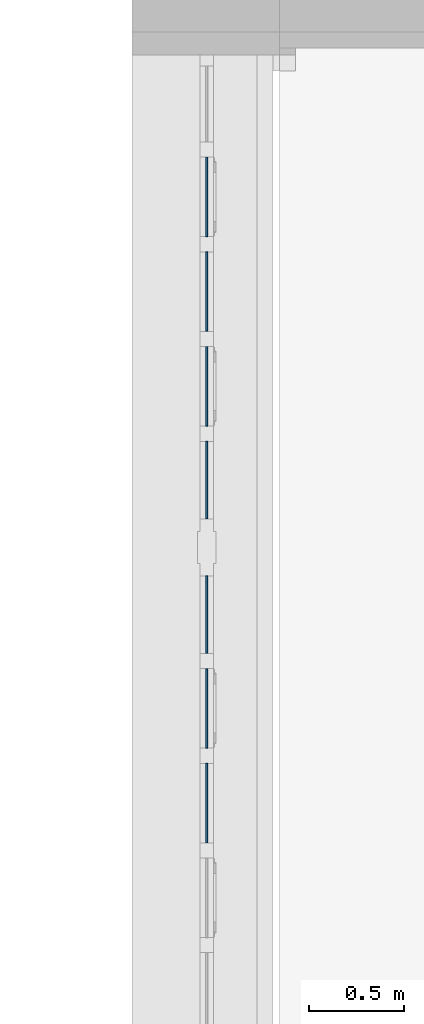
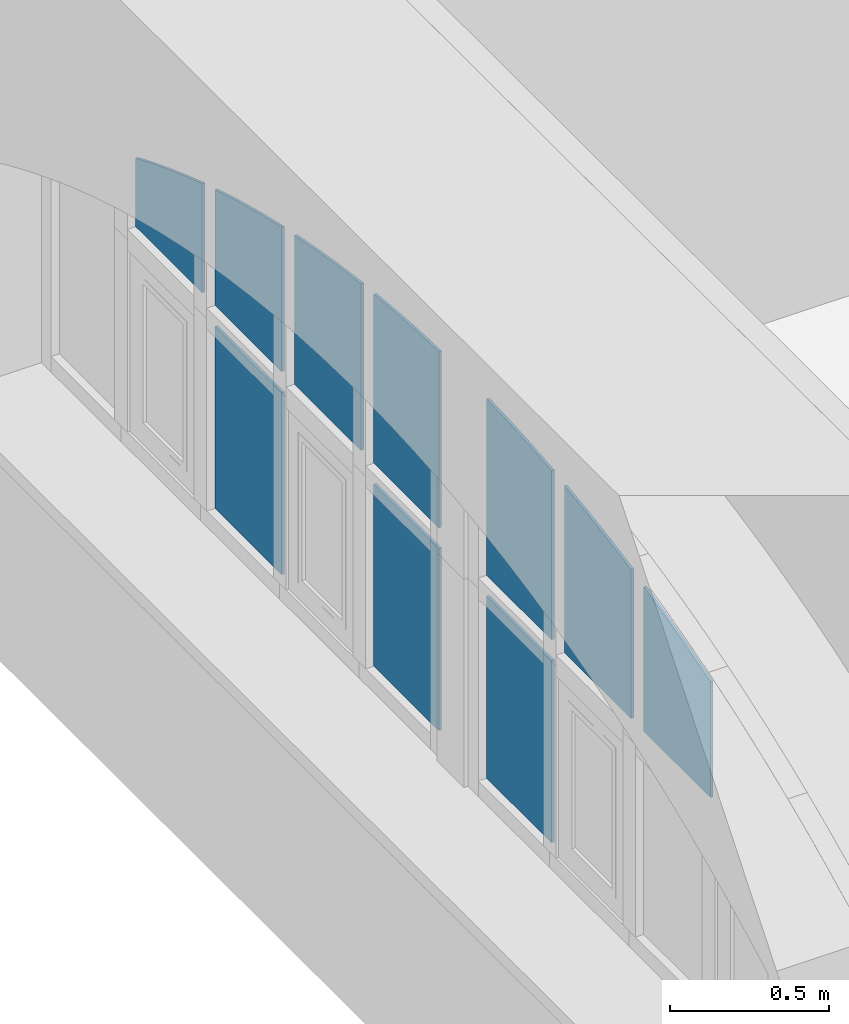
# One storey, part 27 of 32: 10 plates, 1 element without a shape of its own.
"""IFC2X3 building model written with IfcOpenShell, lengths in millimetres."""

from ifc_helpers import new_model, entity, si_unit, converted_unit, derived_unit, direction, frame, frame_2d, origin, origin_2d_with_axis, place, context, subcontext, project, spatial, polyline, circle_curve, parameter, trimmed, segment, composite_curve, rectangle, outline, extrude, source, transform, mapped, material, type_object, type_shapes, element, aggregate, save


model = new_model("IFC2X3")

# Units and contexts
model_context = context("Model", 3, precision=0.01, world=origin(), true_north=direction((6.123031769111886e-17, 1.0)))
body_context = subcontext(model_context, "Body", "Model", "MODEL_VIEW")
ifc_project = project(units=[si_unit("LENGTHUNIT", "METRE", prefix="MILLI"), si_unit("AREAUNIT", "SQUARE_METRE"), si_unit("VOLUMEUNIT", "CUBIC_METRE"), converted_unit("PLANEANGLEUNIT", "DEGREE", entity("IfcPlaneAngleMeasure", 0.017453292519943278), si_unit("PLANEANGLEUNIT", "RADIAN"), dimensions=[0, 0, 0, 0, 0, 0, 0]), si_unit("MASSUNIT", "GRAM", prefix="KILO"), derived_unit("MASSDENSITYUNIT", [(si_unit("MASSUNIT", "GRAM", prefix="KILO"), 1), (si_unit("LENGTHUNIT", "METRE"), -3)]), derived_unit("IONCONCENTRATIONUNIT", [(si_unit("MASSUNIT", "GRAM", prefix="KILO"), 1), (si_unit("LENGTHUNIT", "METRE"), -3)]), derived_unit("MOMENTOFINERTIAUNIT", [(si_unit("LENGTHUNIT", "METRE"), 4)]), si_unit("TIMEUNIT", "SECOND"), si_unit("FREQUENCYUNIT", "HERTZ"), si_unit("THERMODYNAMICTEMPERATUREUNIT", "DEGREE_CELSIUS"), derived_unit("THERMALTRANSMITTANCEUNIT", [(si_unit("MASSUNIT", "GRAM", prefix="KILO"), 1), (si_unit("THERMODYNAMICTEMPERATUREUNIT", "KELVIN"), -1), (si_unit("TIMEUNIT", "SECOND"), -3)]), derived_unit("THERMALCONDUCTANCEUNIT", [(si_unit("MASSUNIT", "GRAM", prefix="KILO"), 1), (si_unit("THERMODYNAMICTEMPERATUREUNIT", "KELVIN"), -1), (si_unit("TIMEUNIT", "SECOND"), -3), (si_unit("LENGTHUNIT", "METRE"), 1)]), derived_unit("VOLUMETRICFLOWRATEUNIT", [(si_unit("LENGTHUNIT", "METRE", prefix="DECI"), 3), (si_unit("TIMEUNIT", "SECOND"), -1)]), derived_unit("MASSFLOWRATEUNIT", [(si_unit("MASSUNIT", "GRAM", prefix="KILO"), 1), (si_unit("TIMEUNIT", "SECOND"), -1)]), derived_unit("ROTATIONALFREQUENCYUNIT", [(si_unit("TIMEUNIT", "SECOND"), -1)]), si_unit("ELECTRICCURRENTUNIT", "AMPERE"), si_unit("ELECTRICVOLTAGEUNIT", "VOLT"), si_unit("POWERUNIT", "WATT"), si_unit("FORCEUNIT", "NEWTON", prefix="KILO"), si_unit("ILLUMINANCEUNIT", "LUX"), si_unit("LUMINOUSFLUXUNIT", "LUMEN"), si_unit("LUMINOUSINTENSITYUNIT", "CANDELA"), si_unit("ENERGYUNIT", "JOULE"), derived_unit("USERDEFINED", [(si_unit("MASSUNIT", "GRAM", prefix="KILO"), -1), (si_unit("LENGTHUNIT", "METRE"), -2), (si_unit("TIMEUNIT", "SECOND"), 3), (si_unit("LUMINOUSFLUXUNIT", "LUMEN"), 1)]), derived_unit("USERDEFINED", [(si_unit("MASSUNIT", "GRAM", prefix="KILO"), 1), (si_unit("TIMEUNIT", "SECOND"), -3), (si_unit("LENGTHUNIT", "METRE"), 3), (si_unit("ELECTRICCURRENTUNIT", "AMPERE"), -2)]), derived_unit("SOUNDPOWERUNIT", [(si_unit("MASSUNIT", "GRAM", prefix="KILO"), 1), (si_unit("TIMEUNIT", "SECOND"), -3), (si_unit("LENGTHUNIT", "METRE"), 2)]), derived_unit("SOUNDPRESSUREUNIT", [(si_unit("MASSUNIT", "GRAM", prefix="KILO"), 1), (si_unit("LENGTHUNIT", "METRE"), -1), (si_unit("TIMEUNIT", "SECOND"), -2)]), derived_unit("LINEARVELOCITYUNIT", [(si_unit("LENGTHUNIT", "METRE"), 1), (si_unit("TIMEUNIT", "SECOND"), -1)]), si_unit("PRESSUREUNIT", "PASCAL"), derived_unit("USERDEFINED", [(si_unit("MASSUNIT", "GRAM", prefix="KILO"), 1), (si_unit("LENGTHUNIT", "METRE"), -2), (si_unit("TIMEUNIT", "SECOND"), -2)]), derived_unit("LINEARFORCEUNIT", [(si_unit("MASSUNIT", "GRAM", prefix="KILO"), 1), (si_unit("TIMEUNIT", "SECOND"), -2)]), derived_unit("PLANARFORCEUNIT", [(si_unit("MASSUNIT", "GRAM", prefix="KILO"), 1), (si_unit("LENGTHUNIT", "METRE"), -1), (si_unit("TIMEUNIT", "SECOND"), -2)]), derived_unit("SPECIFICHEATCAPACITYUNIT", [(si_unit("THERMODYNAMICTEMPERATUREUNIT", "KELVIN"), -1), (si_unit("LENGTHUNIT", "METRE"), 2), (si_unit("TIMEUNIT", "SECOND"), -2)]), derived_unit("HEATFLUXDENSITYUNIT", [(si_unit("MASSUNIT", "GRAM", prefix="KILO"), 1), (si_unit("TIMEUNIT", "SECOND"), -3)]), derived_unit("HEATINGVALUEUNIT", [(si_unit("LENGTHUNIT", "METRE"), 2), (si_unit("TIMEUNIT", "SECOND"), -2)]), derived_unit("VAPORPERMEABILITYUNIT", [(si_unit("LENGTHUNIT", "METRE"), -1), (si_unit("TIMEUNIT", "SECOND"), 1)]), derived_unit("DYNAMICVISCOSITYUNIT", [(si_unit("MASSUNIT", "GRAM", prefix="KILO"), 1), (si_unit("TIMEUNIT", "SECOND"), -1), (si_unit("LENGTHUNIT", "METRE"), -1)]), derived_unit("THERMALEXPANSIONCOEFFICIENTUNIT", [(si_unit("THERMODYNAMICTEMPERATUREUNIT", "KELVIN"), -1)]), derived_unit("MODULUSOFELASTICITYUNIT", [(si_unit("MASSUNIT", "GRAM", prefix="KILO"), 1), (si_unit("LENGTHUNIT", "METRE"), -1), (si_unit("TIMEUNIT", "SECOND"), -2)]), derived_unit("ISOTHERMALMOISTURECAPACITYUNIT", [(si_unit("MASSUNIT", "GRAM", prefix="KILO"), -1), (si_unit("LENGTHUNIT", "METRE"), 3)]), derived_unit("MOISTUREDIFFUSIVITYUNIT", [(si_unit("TIMEUNIT", "SECOND"), -1), (si_unit("LENGTHUNIT", "METRE"), 2)]), derived_unit("MASSPERLENGTHUNIT", [(si_unit("MASSUNIT", "GRAM", prefix="KILO"), 1), (si_unit("LENGTHUNIT", "METRE"), -1)]), derived_unit("THERMALRESISTANCEUNIT", [(si_unit("MASSUNIT", "GRAM", prefix="KILO"), -1), (si_unit("TIMEUNIT", "SECOND"), 3), (si_unit("THERMODYNAMICTEMPERATUREUNIT", "KELVIN"), 1)]), derived_unit("ACCELERATIONUNIT", [(si_unit("LENGTHUNIT", "METRE"), 1), (si_unit("TIMEUNIT", "SECOND"), -2)]), derived_unit("ANGULARVELOCITYUNIT", [(si_unit("TIMEUNIT", "SECOND"), -1), (si_unit("PLANEANGLEUNIT", "RADIAN"), 1)]), derived_unit("LINEARSTIFFNESSUNIT", [(si_unit("MASSUNIT", "GRAM", prefix="KILO"), 1), (si_unit("TIMEUNIT", "SECOND"), -2)]), derived_unit("WARPINGCONSTANTUNIT", [(si_unit("LENGTHUNIT", "METRE"), 6)]), derived_unit("LINEARMOMENTUNIT", [(si_unit("MASSUNIT", "GRAM", prefix="KILO"), 1), (si_unit("LENGTHUNIT", "METRE"), 1), (si_unit("TIMEUNIT", "SECOND"), -2)]), derived_unit("TORQUEUNIT", [(si_unit("MASSUNIT", "GRAM", prefix="KILO"), 1), (si_unit("LENGTHUNIT", "METRE"), 2), (si_unit("TIMEUNIT", "SECOND"), -2)])], contexts=[model_context])

# Site, building, storey
site_placement = place(None, origin())
site = spatial("IfcSite", under=ifc_project, at=site_placement, Name="Default", CompositionType="ELEMENT")
building_placement = place(site_placement, origin())
building = spatial("IfcBuilding", under=site, at=building_placement, Name="Eesti Rahvusraamatukogu hoone renoveerimise projekteerimistööd", CompositionType="ELEMENT")
storey_placement = place(building_placement, frame((0.0, 0.0, 4950.000000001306)))
storey = spatial("IfcBuildingStorey", under=building, at=storey_placement, Name="2. korrus", CompositionType="ELEMENT", Elevation=4950.000000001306)

# Curtain wall, plates
curtain_wall_type = type_object("IfcCurtainWallType", Name="Curtain Wall:Ak-04", PredefinedType="NOTDEFINED")
curtain_wall_placement = place(storey_placement, frame((0.0, 0.0, -4950.000000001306)))
curtain_wall = element("IfcCurtainWall", 1, at=curtain_wall_placement, inside=storey, type_object=curtain_wall_type, Name="Curtain Wall:Ak-04", ObjectType="Curtain Wall:Ak-04")
ifc_material = material(Name="EST. Klaas. 3x. Default")
plate_type_1 = type_object("IfcPlateType", Name="System Panel:Peegelaknad 6-16-4-16-4, paneel", PredefinedType="CURTAIN_PANEL", material=ifc_material)
shared_shape_1 = source(origin(), body_context, "Body", "SweptSolid", [
    extrude(rectangle(XDim=10.0, YDim=419.99999999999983, at=origin_2d_with_axis()), frame((0.0, 0.0, 0.0), z_axis=(0.0, 0.0, 1.0), x_axis=(0.0, 1.0, 0.0)), (0.0, 0.0, 1.0), 700.0),
])
type_shapes(plate_type_1, [shared_shape_1])
plate_1_placement = place(curtain_wall_placement, frame((-36383.999999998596, 46709.00000000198, 5810.000000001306), z_axis=(0.0, 0.0, 1.0), x_axis=(0.0, -1.0, 0.0)))
plate_1 = element("IfcPlate", 2, at=plate_1_placement, type_object=plate_type_1, material=ifc_material, Name="System Panel:Peegelaknad 6-16-4-16-4, paneel", ObjectType="System Panel:Peegelaknad 6-16-4-16-4, paneel", context=body_context, shape_type="MappedRepresentation", body=[
    mapped(shared_shape_1, transform((0.0, 0.0, 0.0), scale=1.0)),
])
plate_type_2 = type_object("IfcPlateType", Name="System Panel:Peegelaknad 6-16-4-16-4, paneel", PredefinedType="CURTAIN_PANEL", material=ifc_material)
shared_shape_2 = source(origin(), body_context, "Body", "SweptSolid", [
    extrude(rectangle(XDim=10.0, YDim=410.0000000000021, at=origin_2d_with_axis()), frame((0.0, 0.0, 0.0), z_axis=(0.0, 0.0, 1.0), x_axis=(0.0, 1.0, 0.0)), (0.0, 0.0, 1.0), 700.0),
])
type_shapes(plate_type_2, [shared_shape_2])
plate_2_placement = place(curtain_wall_placement, frame((-36383.999999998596, 45714.00000000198, 5810.000000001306), z_axis=(0.0, 0.0, 1.0), x_axis=(0.0, -1.0, 0.0)))
plate_2 = element("IfcPlate", 3, at=plate_2_placement, type_object=plate_type_2, material=ifc_material, Name="System Panel:Peegelaknad 6-16-4-16-4, paneel", ObjectType="System Panel:Peegelaknad 6-16-4-16-4, paneel", context=body_context, shape_type="MappedRepresentation", body=[
    mapped(shared_shape_2, transform((0.0, 0.0, 0.0), scale=1.0)),
])
plate_3_placement = place(curtain_wall_placement, frame((-36383.999999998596, 45004.000000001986, 5810.000000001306), z_axis=(0.0, 0.0, 1.0), x_axis=(0.0, -1.0, 0.0)))
plate_3 = element("IfcPlate", 4, at=plate_3_placement, type_object=plate_type_2, material=ifc_material, Name="System Panel:Peegelaknad 6-16-4-16-4, paneel", ObjectType="System Panel:Peegelaknad 6-16-4-16-4, paneel", context=body_context, shape_type="MappedRepresentation", body=[
    mapped(shared_shape_2, transform((0.0, 0.0, 0.0), scale=1.0)),
])
plate_type_3 = type_object("IfcPlateType", Name="System Panel:Peegelaknad 6-16-4-16-4, paneel", PredefinedType="CURTAIN_PANEL", material=ifc_material)
shared_shape_3 = source(origin(), body_context, "Body", "SweptSolid", [
    extrude(outline(composite_curve([segment(polyline([(-170.7819693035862, -210.0), (92.47651241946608, -210.0)]), True, "CONTINUOUS"), segment(trimmed(circle_curve(frame_2d((-4790.558088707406, 1850.0), x_axis=(0.9547498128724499, -0.29741014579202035)), 5299.776119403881), [parameter(354.42875253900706)], [parameter(359.27620733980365)], True, "PARAMETER"), True, "CONTINUOUS"), segment(polyline([(249.0874261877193, 210.0), (-170.7819693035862, 210.0)]), True, "CONTINUOUS"), segment(polyline([(-170.7819693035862, 210.0), (-170.7819693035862, -210.0)]), True, "CONTINUOUS")], self_intersect=False)), frame((0.0, -5.0, 170.7819693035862), z_axis=(0.0, 1.0, 0.0), x_axis=(0.0, 0.0, 1.0)), (0.0, 0.0, 1.0), 10.0),
])
type_shapes(plate_type_3, [shared_shape_3])
plate_4_placement = place(curtain_wall_placement, frame((-36383.999999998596, 47209.000000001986, 6590.000000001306), z_axis=(0.0, 0.0, 1.0), x_axis=(0.0, -1.0, 0.0)))
plate_4 = element("IfcPlate", 5, at=plate_4_placement, type_object=plate_type_3, material=ifc_material, Name="System Panel:Peegelaknad 6-16-4-16-4, paneel", ObjectType="System Panel:Peegelaknad 6-16-4-16-4, paneel", context=body_context, shape_type="MappedRepresentation", body=[
    mapped(shared_shape_3, transform((0.0, 0.0, 0.0), scale=1.0)),
])
plate_type_4 = type_object("IfcPlateType", Name="System Panel:Peegelaknad 6-16-4-16-4, paneel", PredefinedType="CURTAIN_PANEL", material=ifc_material)
shared_shape_4 = source(origin(), body_context, "Body", "SweptSolid", [
    extrude(outline(composite_curve([segment(polyline([(-250.28582961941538, -210.0), (194.91849672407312, -210.0)]), True, "CONTINUOUS"), segment(trimmed(circle_curve(frame_2d((-4870.061949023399, 1350.0), x_axis=(0.9788729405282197, -0.20446947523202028)), 5299.776119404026), [parameter(354.6797564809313)], [parameter(359.3768492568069)], True, "PARAMETER"), True, "CONTINUOUS"), segment(polyline([(305.65316251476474, 210.0), (-250.28582961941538, 210.0)]), True, "CONTINUOUS"), segment(polyline([(-250.28582961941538, 210.0), (-250.28582961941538, -210.0)]), True, "CONTINUOUS")], self_intersect=False)), frame((0.0, -5.0, 250.28582961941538), z_axis=(0.0, 1.0, 0.0), x_axis=(0.0, 0.0, 1.0)), (0.0, 0.0, 1.0), 10.0),
])
type_shapes(plate_type_4, [shared_shape_4])
plate_5_placement = place(curtain_wall_placement, frame((-36383.999999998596, 46709.00000000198, 6590.000000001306), z_axis=(0.0, 0.0, 1.0), x_axis=(0.0, -1.0, 0.0)))
plate_5 = element("IfcPlate", 6, at=plate_5_placement, type_object=plate_type_4, material=ifc_material, Name="System Panel:Peegelaknad 6-16-4-16-4, paneel", ObjectType="System Panel:Peegelaknad 6-16-4-16-4, paneel", context=body_context, shape_type="MappedRepresentation", body=[
    mapped(shared_shape_4, transform((0.0, 0.0, 0.0), scale=1.0)),
])
plate_type_5 = type_object("IfcPlateType", Name="System Panel:Peegelaknad 6-16-4-16-4, paneel", PredefinedType="CURTAIN_PANEL", material=ifc_material)
shared_shape_5 = source(origin(), body_context, "Body", "SweptSolid", [
    extrude(outline(composite_curve([segment(polyline([(-303.532144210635, -210.0), (269.381493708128, -210.0)]), True, "CONTINUOUS"), segment(trimmed(circle_curve(frame_2d((-4923.308263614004, 850.0), x_axis=(0.9937612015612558, -0.11152880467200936)), 5299.776119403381), [parameter(354.8659988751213)], [parameter(359.46749610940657)], True, "PARAMETER"), True, "CONTINUOUS"), segment(polyline([(337.6827947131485, 210.0), (-303.532144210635, 210.0)]), True, "CONTINUOUS"), segment(polyline([(-303.532144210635, 210.0), (-303.532144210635, -210.0)]), True, "CONTINUOUS")], self_intersect=False)), frame((0.0, -5.0, 303.532144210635), z_axis=(0.0, 1.0, 0.0), x_axis=(0.0, 0.0, 1.0)), (0.0, 0.0, 1.0), 10.0),
])
type_shapes(plate_type_5, [shared_shape_5])
plate_6_placement = place(curtain_wall_placement, frame((-36383.999999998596, 46209.000000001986, 6590.000000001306), z_axis=(0.0, 0.0, 1.0), x_axis=(0.0, -1.0, 0.0)))
plate_6 = element("IfcPlate", 7, at=plate_6_placement, type_object=plate_type_5, material=ifc_material, Name="System Panel:Peegelaknad 6-16-4-16-4, paneel", ObjectType="System Panel:Peegelaknad 6-16-4-16-4, paneel", context=body_context, shape_type="MappedRepresentation", body=[
    mapped(shared_shape_5, transform((0.0, 0.0, 0.0), scale=1.0)),
])
plate_type_6 = type_object("IfcPlateType", Name="System Panel:Peegelaknad 6-16-4-16-4, paneel", PredefinedType="CURTAIN_PANEL", material=ifc_material)
shared_shape_6 = source(origin(), body_context, "Body", "SweptSolid", [
    extrude(outline(composite_curve([segment(polyline([(-332.05191026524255, -205.0), (318.27888725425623, -205.0)]), True, "CONTINUOUS"), segment(trimmed(circle_curve(frame_2d((-4951.82802966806, 355.0), x_axis=(1.0, 0.0)), 5299.776119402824), [parameter(353.9345277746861)], [parameter(358.3781362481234)], True, "PARAMETER"), True, "CONTINUOUS"), segment(polyline([(345.8249332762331, 205.0), (-332.05191026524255, 205.0)]), True, "CONTINUOUS"), segment(polyline([(-332.05191026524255, 205.0), (-332.05191026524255, -205.0)]), True, "CONTINUOUS")], self_intersect=False)), frame((0.0, -5.0, 332.05191026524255), z_axis=(0.0, 1.0, 0.0), x_axis=(0.0, 0.0, 1.0)), (0.0, 0.0, 1.0), 10.0),
])
type_shapes(plate_type_6, [shared_shape_6])
plate_7_placement = place(curtain_wall_placement, frame((-36383.999999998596, 45714.00000000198, 6590.000000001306), z_axis=(0.0, 0.0, 1.0), x_axis=(0.0, -1.0, 0.0)))
plate_7 = element("IfcPlate", 8, at=plate_7_placement, type_object=plate_type_6, material=ifc_material, Name="System Panel:Peegelaknad 6-16-4-16-4, paneel", ObjectType="System Panel:Peegelaknad 6-16-4-16-4, paneel", context=body_context, shape_type="MappedRepresentation", body=[
    mapped(shared_shape_6, transform((0.0, 0.0, 0.0), scale=1.0)),
])
plate_type_7 = type_object("IfcPlateType", Name="System Panel:Peegelaknad 6-16-4-16-4, paneel", PredefinedType="CURTAIN_PANEL", material=ifc_material)
shared_shape_7 = source(origin(), body_context, "Body", "SweptSolid", [
    extrude(outline(composite_curve([segment(polyline([(-332.0519102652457, 205.0), (-332.0519102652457, -205.0)]), True, "CONTINUOUS"), segment(polyline([(-332.0519102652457, -205.0), (318.2788872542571, -205.0)]), True, "CONTINUOUS"), segment(trimmed(circle_curve(frame_2d((-4951.828029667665, 355.0), x_axis=(0.9937612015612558, -0.1115288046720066)), 5299.776119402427), [parameter(0.3379797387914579)], [parameter(4.7815882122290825)], True, "PARAMETER"), True, "CONTINUOUS"), segment(polyline([(345.8249332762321, 205.0), (-332.0519102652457, 205.0)]), True, "CONTINUOUS")], self_intersect=False)), frame((0.0, -5.0, 332.0519102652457), z_axis=(0.0, -1.0, 0.0), x_axis=(0.0, 0.0, 1.0)), (0.0, 0.0, -1.0), 10.0),
])
type_shapes(plate_type_7, [shared_shape_7])
plate_8_placement = place(curtain_wall_placement, frame((-36383.999999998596, 45004.000000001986, 6590.000000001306), z_axis=(0.0, 0.0, 1.0), x_axis=(0.0, -1.0, 0.0)))
plate_8 = element("IfcPlate", 9, at=plate_8_placement, type_object=plate_type_7, material=ifc_material, Name="System Panel:Peegelaknad 6-16-4-16-4, paneel", ObjectType="System Panel:Peegelaknad 6-16-4-16-4, paneel", context=body_context, shape_type="MappedRepresentation", body=[
    mapped(shared_shape_7, transform((0.0, 0.0, 0.0), scale=1.0)),
])
plate_type_8 = type_object("IfcPlateType", Name="System Panel:Peegelaknad 6-16-4-16-4, paneel", PredefinedType="CURTAIN_PANEL", material=ifc_material)
shared_shape_8 = source(origin(), body_context, "Body", "SweptSolid", [
    extrude(outline(composite_curve([segment(polyline([(-303.53214421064, 210.0), (-303.53214421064, -210.0)]), True, "CONTINUOUS"), segment(polyline([(-303.53214421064, -210.0), (269.3814937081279, -210.0)]), True, "CONTINUOUS"), segment(trimmed(circle_curve(frame_2d((-4923.3082636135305, 850.0), x_axis=(0.9788729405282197, -0.2044694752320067)), 5299.7761194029), [parameter(0.2609913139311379)], [parameter(4.862488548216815)], True, "PARAMETER"), True, "CONTINUOUS"), segment(polyline([(337.6827947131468, 210.0), (-303.53214421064, 210.0)]), True, "CONTINUOUS")], self_intersect=False)), frame((0.0, -5.0, 303.53214421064), z_axis=(0.0, -1.0, 0.0), x_axis=(0.0, 0.0, 1.0)), (0.0, 0.0, -1.0), 10.0),
])
type_shapes(plate_type_8, [shared_shape_8])
plate_9_placement = place(curtain_wall_placement, frame((-36383.999999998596, 44509.00000000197, 6590.000000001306), z_axis=(0.0, 0.0, 1.0), x_axis=(0.0, -1.0, 0.0)))
plate_9 = element("IfcPlate", 10, at=plate_9_placement, type_object=plate_type_8, material=ifc_material, Name="System Panel:Peegelaknad 6-16-4-16-4, paneel", ObjectType="System Panel:Peegelaknad 6-16-4-16-4, paneel", context=body_context, shape_type="MappedRepresentation", body=[
    mapped(shared_shape_8, transform((0.0, 0.0, 0.0), scale=1.0)),
])
plate_type_9 = type_object("IfcPlateType", Name="System Panel:Peegelaknad 6-16-4-16-4, paneel", PredefinedType="CURTAIN_PANEL", material=ifc_material)
shared_shape_9 = source(origin(), body_context, "Body", "SweptSolid", [
    extrude(outline(composite_curve([segment(polyline([(-250.28582961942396, 210.0), (-250.28582961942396, -210.0)]), True, "CONTINUOUS"), segment(polyline([(-250.28582961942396, -210.0), (194.9184967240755, -210.0)]), True, "CONTINUOUS"), segment(trimmed(circle_curve(frame_2d((-4870.061949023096, 1350.0), x_axis=(0.9547498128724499, -0.2974101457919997)), 5299.776119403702), [parameter(0.18342876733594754)], [parameter(4.880521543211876)], True, "PARAMETER"), True, "CONTINUOUS"), segment(polyline([(305.6531625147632, 210.0), (-250.28582961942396, 210.0)]), True, "CONTINUOUS")], self_intersect=False)), frame((0.0, -5.0, 250.28582961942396), z_axis=(0.0, -1.0, 0.0), x_axis=(0.0, 0.0, 1.0)), (0.0, 0.0, -1.0), 10.0),
])
type_shapes(plate_type_9, [shared_shape_9])
plate_10_placement = place(curtain_wall_placement, frame((-36383.9999999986, 44009.000000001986, 6590.000000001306), z_axis=(0.0, 0.0, 1.0), x_axis=(0.0, -1.0, 0.0)))
plate_10 = element("IfcPlate", 11, at=plate_10_placement, type_object=plate_type_9, material=ifc_material, Name="System Panel:Peegelaknad 6-16-4-16-4, paneel", ObjectType="System Panel:Peegelaknad 6-16-4-16-4, paneel", context=body_context, shape_type="MappedRepresentation", body=[
    mapped(shared_shape_9, transform((0.0, 0.0, 0.0), scale=1.0)),
])
aggregate(curtain_wall, [plate_1, plate_2, plate_3, plate_4, plate_5, plate_6, plate_7, plate_8, plate_9, plate_10])

save(model, "model.ifc")
